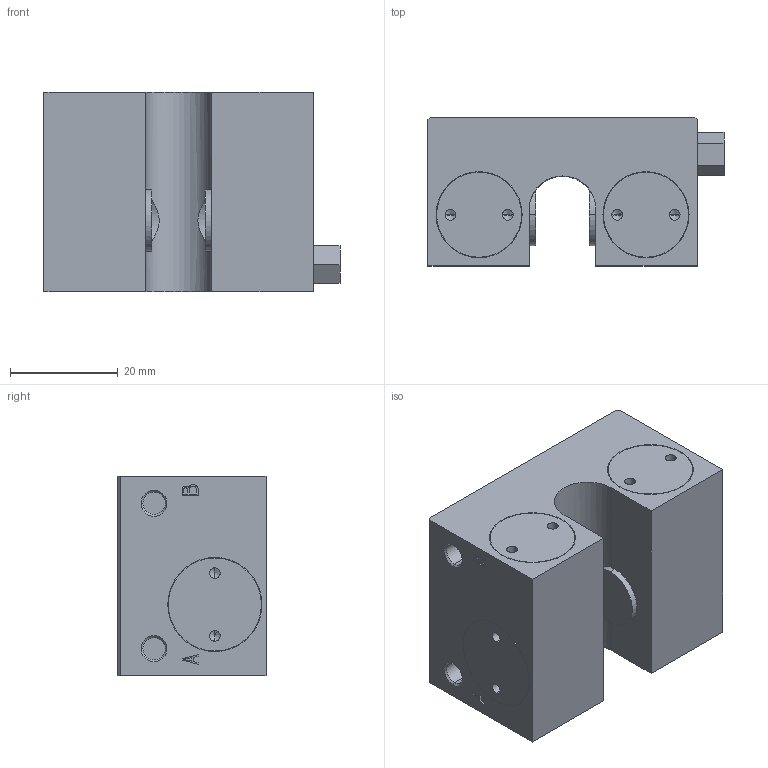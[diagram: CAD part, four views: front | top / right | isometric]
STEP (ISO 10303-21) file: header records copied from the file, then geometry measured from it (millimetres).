
FILE_DESCRIPTION( ( '' ), '1' );
FILE_NAME( 'E:/04 嬴檜蠱滌/0404 ZIMMER/040414 ZIMMER CAD download/MKR/MKR1000A.stp', '2020-04-16T10:09:55', ( '' ), ( '' ), ' ', ' ', ' ' );
FILE_SCHEMA( ( 'automotive_design' ) );
Length unit declared in the file: millimetre
Products named in the file (1): 1
Bounding box: 55 x 27.5 x 37 mm (x, y, z)
Volume: 43497.2 mm3; surface area: 11665.7 mm2
Topology: 1 solids, 2 shells, 184 faces, 430 edges, 268 vertices
Faces by surface type: plane 87, cylinder 65, cone 32
Entity records: 10220 total; most frequent: CARTESIAN_POINT 1065, DIRECTION 922, STYLED_ITEM 867, PRESENTATION_STYLE_ASSIGNMENT 867, COLOUR_RGB 867, ORIENTED_EDGE 828, EDGE_CURVE 414, CURVE_STYLE 414
